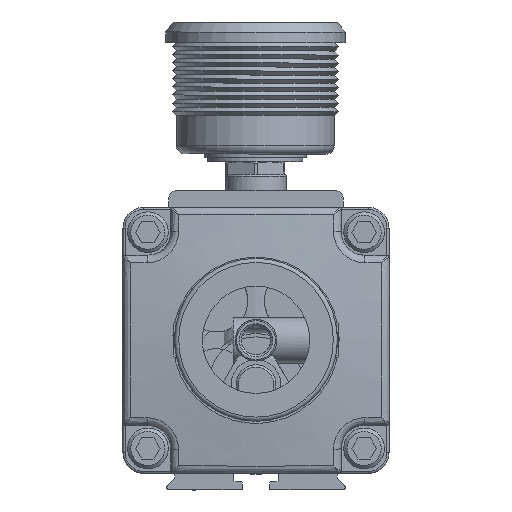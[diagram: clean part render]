
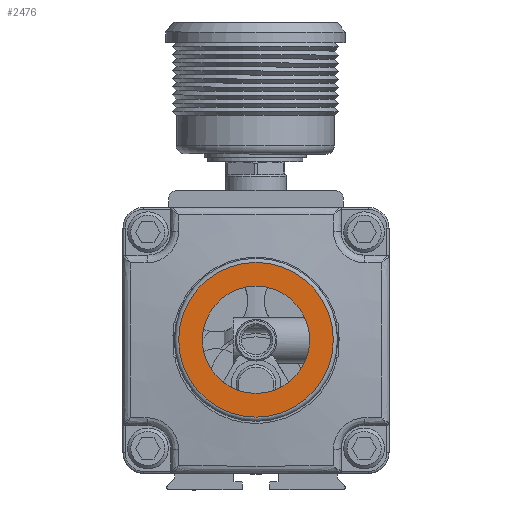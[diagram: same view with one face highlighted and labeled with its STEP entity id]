
A CAD part, left-side view. The second image highlights one B-rep face of the part: STEP entity #2476.
In plain terms, the highlighted planar face has unit normal (-1, 0, 0).
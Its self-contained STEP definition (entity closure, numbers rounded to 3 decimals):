
#2476 = ADVANCED_FACE( '', ( #6053, #6054 ), #6055, .F. );
#6053 = FACE_OUTER_BOUND( '', #11655, .T. );
#6054 = FACE_BOUND( '', #11656, .T. );
#6055 = PLANE( '', #11657 );
#11655 = EDGE_LOOP( '', ( #18804 ) );
#11656 = EDGE_LOOP( '', ( #18805 ) );
#11657 = AXIS2_PLACEMENT_3D( '', #18806, #18807, #18808 );
#18804 = ORIENTED_EDGE( '', *, *, #25267, .T. );
#18805 = ORIENTED_EDGE( '', *, *, #25327, .F. );
#18806 = CARTESIAN_POINT( '', ( -64.5, 0., 0. ) );
#18807 = DIRECTION( '', ( 1., 0., 0. ) );
#18808 = DIRECTION( '', ( 0., 1., 0. ) );
#25267 = EDGE_CURVE( '', #29713, #29713, #29714, .T. );
#25327 = EDGE_CURVE( '', #29793, #29793, #29794, .T. );
#29713 = VERTEX_POINT( '', #38682 );
#29714 = CIRCLE( '', #38683, 18.6 );
#29793 = VERTEX_POINT( '', #38811 );
#29794 = CIRCLE( '', #38812, 12.9 );
#38682 = CARTESIAN_POINT( '', ( -64.5, 0., -18.6 ) );
#38683 = AXIS2_PLACEMENT_3D( '', #43150, #43151, #43152 );
#38811 = CARTESIAN_POINT( '', ( -64.5, 0., -12.9 ) );
#38812 = AXIS2_PLACEMENT_3D( '', #43223, #43224, #43225 );
#43150 = CARTESIAN_POINT( '', ( -64.5, 0., 0. ) );
#43151 = DIRECTION( '', ( -1., 0., 0. ) );
#43152 = DIRECTION( '', ( 0., 0., -1. ) );
#43223 = CARTESIAN_POINT( '', ( -64.5, 0., 0. ) );
#43224 = DIRECTION( '', ( -1., 0., 0. ) );
#43225 = DIRECTION( '', ( 0., 0., -1. ) );
